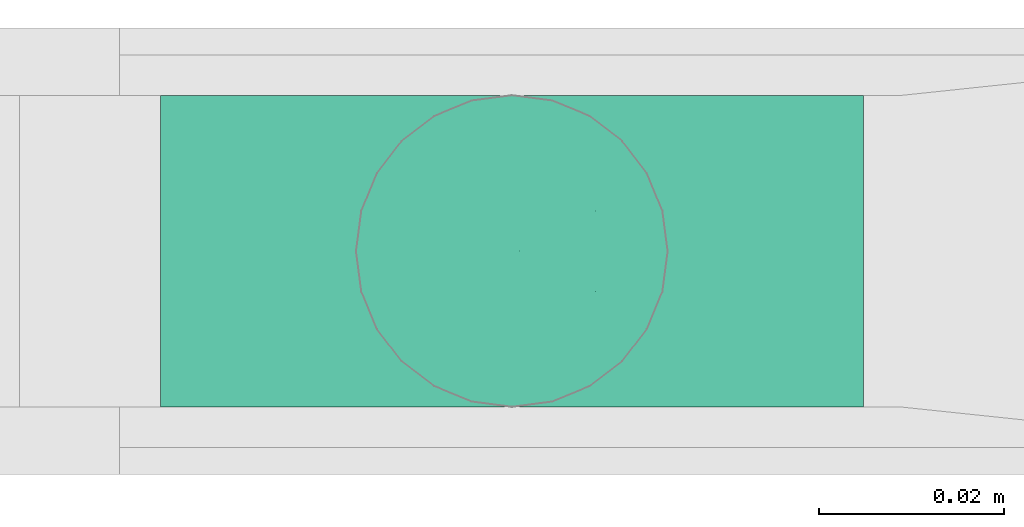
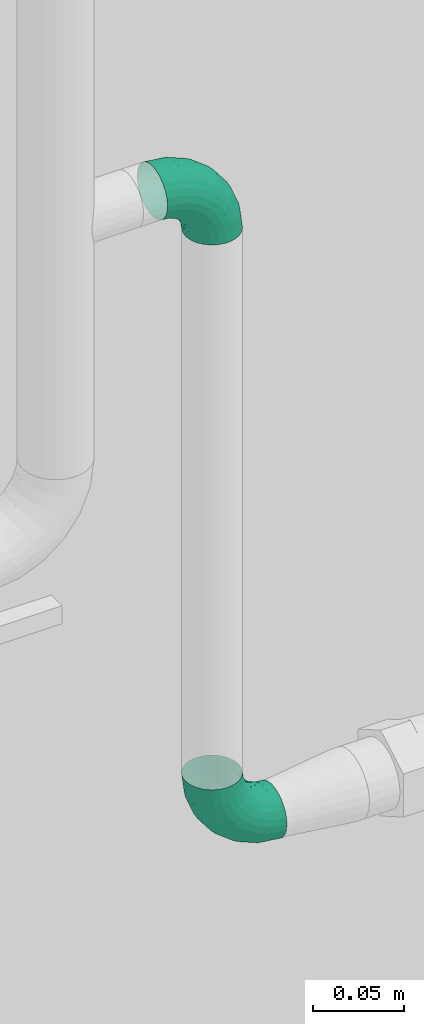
# One storey, part 350 of 374: 2 flow segments.
"""IFC2X3 building model written with IfcOpenShell, lengths in metres."""

from ifc_helpers import new_model, si_unit, direction, origin, place, context, subcontext, project, spatial, open_shell, surface_model, source, transform, mapped, element, save


model = new_model("IFC2X3")

# Units and contexts
model_context = context("Model", 3, precision=1e-05, world=origin(), true_north=direction((-0.4480736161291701, 0.8939966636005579)))
body_context = subcontext(model_context, "Body", "Model", "MODEL_VIEW")
ifc_project = project(units=[si_unit("LENGTHUNIT", "METRE"), si_unit("AREAUNIT", "SQUARE_METRE"), si_unit("VOLUMEUNIT", "CUBIC_METRE"), si_unit("PLANEANGLEUNIT", "RADIAN"), si_unit("THERMODYNAMICTEMPERATUREUNIT", "KELVIN"), si_unit("MASSUNIT", "GRAM", prefix="KILO"), si_unit("TIMEUNIT", "SECOND")], contexts=[model_context])

# Site, building, storey
site_placement = place(None, origin())
site = spatial("IfcSite", under=ifc_project, at=site_placement, Name="Site 1", CompositionType="ELEMENT")
building_placement = place(site_placement, origin())
building = spatial("IfcBuilding", under=site, at=building_placement, Name="Undefined", CompositionType="ELEMENT")
storey_placement = place(building_placement, origin())
storey = spatial("IfcBuildingStorey", under=building, at=storey_placement, Name="Rez de chauss\x8ee", CompositionType="ELEMENT", Elevation=0.0)

# Flow segments
shared_shape_1 = source(origin(), body_context, "Body", "SurfaceModel", [
    surface_model("IfcFaceBasedSurfaceModel", [(0.014318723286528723, 0.0, 8.8817842e-16), (0.01424378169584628, 0.004398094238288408, 0.0), (7.494159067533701e-05, 0.004398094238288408, 8.8817842e-16), (0.0, 0.0, 0.0), (-0.013611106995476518, 0.004872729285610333, -0.0036363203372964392), (-0.01383082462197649, 0.000479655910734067, -0.003674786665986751), (-0.02588168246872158, 0.005789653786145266, -0.010661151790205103), (-0.026231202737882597, 0.0014062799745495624, -0.010773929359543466), (-0.03590056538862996, 0.007086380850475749, -0.02059576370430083), (-0.036356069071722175, 0.0027167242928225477, -0.020813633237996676), (-0.04298498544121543, 0.008674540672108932, -0.03276312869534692), (-0.0435154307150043, 0.0043216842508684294, -0.03310970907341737), (-0.046652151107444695, 0.010445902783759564, -0.04633406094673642), (-0.04722138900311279, 0.006111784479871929, -0.04682419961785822), (0.01402406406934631, 0.008643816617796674, -0.00112889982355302), (0.0002946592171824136, 0.00864381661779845, -0.001128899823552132), (-0.01296692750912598, 0.009103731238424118, -0.00465244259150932), (-0.02485694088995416, 0.009992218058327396, -0.011459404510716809), (-0.03456509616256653, 0.011248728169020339, -0.021085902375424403), (-0.041429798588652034, 0.012787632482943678, -0.03287590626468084), (-0.04498323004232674, 0.014504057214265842, -0.04602594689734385), (0.013674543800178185, 0.012447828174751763, -0.0033097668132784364), (0.0006441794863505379, 0.012447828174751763, -0.003309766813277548), (-0.011942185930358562, 0.012884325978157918, -0.006653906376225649), (-0.023226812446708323, 0.013727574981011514, -0.01311428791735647), (-0.032440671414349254, 0.014920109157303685, -0.022250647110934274), (-0.038955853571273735, 0.016380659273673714, -0.03344035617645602), (-0.04232836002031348, 0.01800969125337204, -0.04592085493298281), (0.013219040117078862, 0.01555089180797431, -0.006393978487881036), (0.0010996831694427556, 0.015550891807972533, -0.006393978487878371), (-0.010606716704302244, 0.015956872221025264, -0.009504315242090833), (-0.021102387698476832, 0.016741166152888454, -0.01551302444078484), (-0.029672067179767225, 0.01785032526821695, -0.024010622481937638), (-0.035731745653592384, 0.01920876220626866, -0.03441801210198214), (-0.038868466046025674, 0.02072390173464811, -0.04602594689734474), (0.012688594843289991, 0.01774153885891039, -0.010171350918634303), (0.0016301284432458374, 0.01774153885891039, -0.010171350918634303), (-0.009051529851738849, 0.018111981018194, -0.013009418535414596), (-0.01862844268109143, 0.01882762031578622, -0.018492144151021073), (-0.026447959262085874, 0.019839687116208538, -0.02624588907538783), (-0.03197719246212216, 0.021079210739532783, -0.03574224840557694), (-0.034839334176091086, 0.022461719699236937, -0.04633406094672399), (0.012119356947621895, 0.018870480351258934, -0.014384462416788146), (0.0021993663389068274, 0.018870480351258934, -0.014384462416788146), (-0.007382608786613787, 0.019202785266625, -0.016930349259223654), (-0.015973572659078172, 0.019844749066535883, -0.021848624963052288), (-0.022988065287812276, 0.020752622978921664, -0.02880411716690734), (-0.027948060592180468, 0.021864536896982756, -0.03732282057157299), (-0.030515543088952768, 0.023104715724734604, -0.04682419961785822), (0.0115501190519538, 0.018860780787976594, -0.01874619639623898), (0.002768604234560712, 0.018860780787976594, -0.01874619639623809), (-0.005713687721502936, 0.019154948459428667, -0.020999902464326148), (-0.013318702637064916, 0.01972323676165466, -0.025353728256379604), (-0.019528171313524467, 0.02052691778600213, -0.03151096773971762), (-0.023918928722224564, 0.021511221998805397, -0.03905201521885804), (-0.02619175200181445, 0.02260907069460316, -0.04746296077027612), (0.011019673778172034, 0.01771310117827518, -0.022959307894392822), (0.0032990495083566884, 0.01771310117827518, -0.022959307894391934), (-0.004158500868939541, 0.017971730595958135, -0.0249407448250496), (-0.010844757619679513, 0.018471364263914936, -0.028768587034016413), (-0.01630406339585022, 0.019177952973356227, -0.03418197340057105), (-0.020164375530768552, 0.0200433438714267, -0.04081199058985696), (-0.022162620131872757, 0.02100856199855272, -0.04820681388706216), (0.010564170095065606, 0.015505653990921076, -0.02673668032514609), (0.0037545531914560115, 0.015505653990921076, -0.0267366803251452), (-0.002823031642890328, 0.01573376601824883, -0.028484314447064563), (-0.008720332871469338, 0.016174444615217, -0.03186048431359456), (-0.01353545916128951, 0.016797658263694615, -0.036635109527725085), (-0.016940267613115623, 0.017560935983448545, -0.042482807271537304), (-0.018702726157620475, 0.01841226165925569, -0.04900506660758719), (0.010214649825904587, 0.012388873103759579, -0.029820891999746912), (0.004104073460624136, 0.012388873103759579, -0.029820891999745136), (-0.0017982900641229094, 0.012593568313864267, -0.03138912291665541), (-0.007090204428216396, 0.012989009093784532, -0.03441871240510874), (-0.011411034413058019, 0.013548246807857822, -0.0387031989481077), (-0.014466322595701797, 0.014233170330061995, -0.04395060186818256), (-0.01604785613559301, 0.014997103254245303, -0.0498033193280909), (0.009994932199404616, 0.008575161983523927, -0.03200175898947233), (0.004323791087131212, 0.00857516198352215, -0.03200175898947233), (-0.001154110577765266, 0.00876513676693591, -0.03345721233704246), (-0.006065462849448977, 0.009132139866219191, -0.03626893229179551), (-0.0100755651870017, 0.009651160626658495, -0.04024530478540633), (-0.012911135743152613, 0.010286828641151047, -0.04511534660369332), (-0.014378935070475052, 0.010995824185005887, -0.05054717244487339), (0.009919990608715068, 0.004324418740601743, -0.03313065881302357), (0.004398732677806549, 0.004324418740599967, -0.03313065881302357), (-0.0009343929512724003, 0.004509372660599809, -0.03454764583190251), (-0.005715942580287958, 0.004866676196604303, -0.03728505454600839), (-0.009620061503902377, 0.005371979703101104, -0.041156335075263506), (-0.012380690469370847, 0.005990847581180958, -0.04589766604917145), (-0.013809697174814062, 0.006681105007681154, -0.05118593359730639), (0.00999493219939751, -7.367549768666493e-05, -0.03313065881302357), (0.004323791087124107, -7.367549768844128e-05, -0.03313065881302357), (-0.0011541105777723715, 0.00011629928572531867, -0.03458611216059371), (-0.0060654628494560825, 0.00048330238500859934, -0.03739783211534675), (-0.010075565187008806, 0.0010023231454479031, -0.04137420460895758), (-0.012911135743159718, 0.001637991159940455, -0.04624424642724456), (-0.014378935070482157, 0.002346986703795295, -0.05167607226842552), (0.010214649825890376, -0.004319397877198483, -0.03200175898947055), (0.00410407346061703, -0.0043193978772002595, -0.03200175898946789), (-0.0017982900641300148, -0.004114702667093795, -0.03356998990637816), (-0.007090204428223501, -0.0037192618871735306, -0.036599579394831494), (-0.011411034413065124, -0.00316002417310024, -0.04088406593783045), (-0.014466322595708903, -0.002475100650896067, -0.04613146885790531), (-0.016047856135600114, -0.0017111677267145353, -0.05198418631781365), (0.0105641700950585, -0.008123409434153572, -0.029820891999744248), (0.003754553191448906, -0.008123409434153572, -0.02982089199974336), (-0.0028230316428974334, -0.007895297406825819, -0.03156852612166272), (-0.008720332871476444, -0.007454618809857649, -0.03494469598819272), (-0.013535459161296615, -0.006831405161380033, -0.03971932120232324), (-0.016940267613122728, -0.006068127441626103, -0.04556701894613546), (-0.01870272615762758, -0.005216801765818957, -0.05208927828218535), (0.011019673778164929, -0.011226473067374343, -0.026736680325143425), (0.003299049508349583, -0.011226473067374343, -0.026736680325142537), (-0.004158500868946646, -0.010967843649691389, -0.028718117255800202), (-0.010844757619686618, -0.010468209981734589, -0.032545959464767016), (-0.016304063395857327, -0.009761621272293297, -0.037959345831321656), (-0.020164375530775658, -0.008896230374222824, -0.044589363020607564), (-0.022162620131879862, -0.007931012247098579, -0.051984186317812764), (0.011550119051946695, -0.013417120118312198, -0.02295930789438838), (0.0027686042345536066, -0.013417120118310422, -0.022959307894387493), (-0.005713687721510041, -0.013122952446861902, -0.02521301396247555), (-0.013318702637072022, -0.012554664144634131, -0.029566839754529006), (-0.019528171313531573, -0.011750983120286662, -0.035724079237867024), (-0.02391892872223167, -0.010766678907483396, -0.04326512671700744), (-0.026191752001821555, -0.009668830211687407, -0.05167607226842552), (0.01211935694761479, -0.014546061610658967, -0.018746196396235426), (0.002199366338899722, -0.014546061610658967, -0.018746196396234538), (-0.007382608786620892, -0.0142137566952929, -0.021292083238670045), (-0.015973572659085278, -0.013571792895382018, -0.02621035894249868), (-0.02298806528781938, -0.012663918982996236, -0.03316585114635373), (-0.027948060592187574, -0.011552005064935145, -0.04168455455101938), (-0.030515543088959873, -0.010311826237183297, -0.05118593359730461), (0.012688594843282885, -0.014536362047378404, -0.014384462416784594), (0.001630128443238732, -0.014536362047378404, -0.014384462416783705), (-0.009051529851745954, -0.014165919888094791, -0.017222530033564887), (-0.018628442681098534, -0.013450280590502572, -0.022705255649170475), (-0.02644795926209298, -0.012438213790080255, -0.03045900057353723), (-0.03197719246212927, -0.011198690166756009, -0.03995535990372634), (-0.03483933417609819, -0.009816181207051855, -0.05054717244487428), (0.013219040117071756, -0.013388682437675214, -0.010171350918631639), (0.0010996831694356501, -0.01338868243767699, -0.010171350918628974), (-0.010606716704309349, -0.01298270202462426, -0.013281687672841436), (-0.021102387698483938, -0.01219840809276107, -0.019290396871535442), (-0.02967206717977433, -0.011089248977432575, -0.02778799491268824), (-0.03573174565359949, -0.009730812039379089, -0.038195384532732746), (-0.03886846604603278, -0.008215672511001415, -0.04980331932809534), (0.01367454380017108, -0.011181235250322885, -0.006393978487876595), (0.0006441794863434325, -0.011181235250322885, -0.006393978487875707), (-0.011942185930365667, -0.01074473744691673, -0.009738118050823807), (-0.023226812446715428, -0.009901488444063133, -0.01619849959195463), (-0.03244067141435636, -0.008708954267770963, -0.02533485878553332), (-0.03895585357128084, -0.007248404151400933, -0.03652456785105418), (-0.04232836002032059, -0.005619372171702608, -0.04900506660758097), (0.014024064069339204, -0.008064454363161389, -0.003309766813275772), (0.0002946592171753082, -0.008064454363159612, -0.0033097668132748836), (-0.012966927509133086, -0.0076045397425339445, -0.006833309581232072), (-0.024856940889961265, -0.0067160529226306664, -0.01364027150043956), (-0.03456509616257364, -0.005459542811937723, -0.023266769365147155), (-0.04142979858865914, -0.003920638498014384, -0.03505677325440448), (-0.044983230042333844, -0.00220421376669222, -0.0482068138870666), (0.014243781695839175, -0.004250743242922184, -0.0011288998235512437), (7.494159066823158e-05, -0.004250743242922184, -0.0011288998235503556), (-0.013611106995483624, -0.0037761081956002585, -0.004765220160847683), (-0.025881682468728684, -0.002859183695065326, -0.011790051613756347), (-0.03590056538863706, -0.001562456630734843, -0.021724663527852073), (-0.042984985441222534, 2.5703190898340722e-05, -0.033892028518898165), (-0.0466521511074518, 0.0017970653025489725, -0.047462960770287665)], [open_shell([[[0, 1, 2, 3]], [[3, 2, 4, 5]], [[5, 4, 6, 7]], [[7, 6, 8, 9]], [[9, 8, 10, 11]], [[11, 10, 12, 13]], [[1, 14, 15, 2]], [[2, 15, 16, 4]], [[4, 16, 17, 6]], [[6, 17, 18, 8]], [[8, 18, 19, 10]], [[10, 19, 20, 12]], [[14, 21, 22, 15]], [[15, 22, 23, 16]], [[16, 23, 24, 17]], [[17, 24, 25, 18]], [[18, 25, 26, 19]], [[19, 26, 27, 20]], [[21, 28, 29, 22]], [[22, 29, 30, 23]], [[23, 30, 31, 24]], [[24, 31, 32, 25]], [[25, 32, 33, 26]], [[26, 33, 34, 27]], [[28, 35, 36, 29]], [[29, 36, 37, 30]], [[30, 37, 38, 31]], [[31, 38, 39, 32]], [[32, 39, 40, 33]], [[33, 40, 41, 34]], [[35, 42, 43, 36]], [[36, 43, 44, 37]], [[37, 44, 45, 38]], [[38, 45, 46, 39]], [[39, 46, 47, 40]], [[40, 47, 48, 41]], [[42, 49, 50, 43]], [[43, 50, 51, 44]], [[44, 51, 52, 45]], [[45, 52, 53, 46]], [[46, 53, 54, 47]], [[47, 54, 55, 48]], [[49, 56, 57, 50]], [[50, 57, 58, 51]], [[51, 58, 59, 52]], [[52, 59, 60, 53]], [[53, 60, 61, 54]], [[54, 61, 62, 55]], [[56, 63, 64, 57]], [[57, 64, 65, 58]], [[58, 65, 66, 59]], [[59, 66, 67, 60]], [[60, 67, 68, 61]], [[61, 68, 69, 62]], [[63, 70, 71, 64]], [[64, 71, 72, 65]], [[65, 72, 73, 66]], [[66, 73, 74, 67]], [[67, 74, 75, 68]], [[68, 75, 76, 69]], [[70, 77, 78, 71]], [[71, 78, 79, 72]], [[72, 79, 80, 73]], [[73, 80, 81, 74]], [[74, 81, 82, 75]], [[75, 82, 83, 76]], [[77, 84, 85, 78]], [[78, 85, 86, 79]], [[79, 86, 87, 80]], [[80, 87, 88, 81]], [[81, 88, 89, 82]], [[82, 89, 90, 83]], [[84, 91, 92, 85]], [[85, 92, 93, 86]], [[86, 93, 94, 87]], [[87, 94, 95, 88]], [[88, 95, 96, 89]], [[89, 96, 97, 90]], [[91, 98, 99, 92]], [[92, 99, 100, 93]], [[93, 100, 101, 94]], [[94, 101, 102, 95]], [[95, 102, 103, 96]], [[96, 103, 104, 97]], [[98, 105, 106, 99]], [[99, 106, 107, 100]], [[100, 107, 108, 101]], [[101, 108, 109, 102]], [[102, 109, 110, 103]], [[103, 110, 111, 104]], [[105, 112, 113, 106]], [[106, 113, 114, 107]], [[107, 114, 115, 108]], [[108, 115, 116, 109]], [[109, 116, 117, 110]], [[110, 117, 118, 111]], [[112, 119, 120, 113]], [[113, 120, 121, 114]], [[114, 121, 122, 115]], [[115, 122, 123, 116]], [[116, 123, 124, 117]], [[117, 124, 125, 118]], [[119, 126, 127, 120]], [[120, 127, 128, 121]], [[121, 128, 129, 122]], [[122, 129, 130, 123]], [[123, 130, 131, 124]], [[124, 131, 132, 125]], [[126, 133, 134, 127]], [[127, 134, 135, 128]], [[128, 135, 136, 129]], [[129, 136, 137, 130]], [[130, 137, 138, 131]], [[131, 138, 139, 132]], [[133, 140, 141, 134]], [[134, 141, 142, 135]], [[135, 142, 143, 136]], [[136, 143, 144, 137]], [[137, 144, 145, 138]], [[138, 145, 146, 139]], [[140, 147, 148, 141]], [[141, 148, 149, 142]], [[142, 149, 150, 143]], [[143, 150, 151, 144]], [[144, 151, 152, 145]], [[145, 152, 153, 146]], [[147, 154, 155, 148]], [[148, 155, 156, 149]], [[149, 156, 157, 150]], [[150, 157, 158, 151]], [[151, 158, 159, 152]], [[152, 159, 160, 153]], [[154, 161, 162, 155]], [[155, 162, 163, 156]], [[156, 163, 164, 157]], [[157, 164, 165, 158]], [[158, 165, 166, 159]], [[159, 166, 167, 160]], [[161, 0, 3, 162]], [[162, 3, 5, 163]], [[163, 5, 7, 164]], [[164, 7, 9, 165]], [[165, 9, 11, 166]], [[166, 11, 13, 167]]])]),
])
flow_segment_1_placement = place(storey_placement, origin())
element("IfcFlowSegment", 1, at=flow_segment_1_placement, inside=storey, Name="Tube coudé", ObjectType="Tube coudé", context=body_context, shape_type="MappedRepresentation", body=[
    mapped(shared_shape_1, transform((54.17449617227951, 11.70808442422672, 1.5909212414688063), x_axis=(-0.9914448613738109, 0.0, 0.1305261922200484), y_axis=(-0.016893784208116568, -0.9915887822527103, -0.12832103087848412), z_axis=(0.12942830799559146, -0.1294283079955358, 0.9831056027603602))),
])
shared_shape_2 = source(origin(), body_context, "Body", "SurfaceModel", [
    surface_model("IfcFaceBasedSurfaceModel", [(0.014318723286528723, 0.0, 8.8817842e-16), (0.01424378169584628, 0.004398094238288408, 0.0), (7.494159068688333e-05, 0.004398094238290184, 0.0), (0.0, 0.0, 0.0), (-0.013611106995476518, 0.004872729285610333, -0.0036363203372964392), (-0.01383082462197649, 0.000479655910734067, -0.003674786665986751), (-0.02588168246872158, 0.005789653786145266, -0.010661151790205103), (-0.026231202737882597, 0.0014062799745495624, -0.010773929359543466), (-0.03590056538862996, 0.007086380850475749, -0.02059576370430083), (-0.036356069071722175, 0.0027167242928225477, -0.020813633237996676), (-0.04298498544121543, 0.008674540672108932, -0.03276312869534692), (-0.0435154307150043, 0.0043216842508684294, -0.03310970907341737), (-0.046652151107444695, 0.010445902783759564, -0.04633406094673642), (-0.04722138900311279, 0.006111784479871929, -0.04682419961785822), (0.01402406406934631, 0.008643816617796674, -0.00112889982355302), (0.0002946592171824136, 0.00864381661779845, -0.001128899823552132), (-0.01296692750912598, 0.009103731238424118, -0.00465244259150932), (-0.02485694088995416, 0.009992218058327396, -0.011459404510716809), (-0.03456509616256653, 0.011248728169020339, -0.021085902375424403), (-0.041429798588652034, 0.012787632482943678, -0.03287590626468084), (-0.04498323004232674, 0.014504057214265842, -0.04602594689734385), (0.013674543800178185, 0.012447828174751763, -0.0033097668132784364), (0.0006441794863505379, 0.012447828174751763, -0.003309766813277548), (-0.011942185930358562, 0.012884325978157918, -0.006653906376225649), (-0.023226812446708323, 0.013727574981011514, -0.01311428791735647), (-0.032440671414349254, 0.014920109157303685, -0.022250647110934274), (-0.038955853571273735, 0.016380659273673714, -0.03344035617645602), (-0.04232836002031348, 0.01800969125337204, -0.04592085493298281), (0.013219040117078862, 0.01555089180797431, -0.006393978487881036), (0.0010996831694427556, 0.015550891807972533, -0.006393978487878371), (-0.010606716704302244, 0.015956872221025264, -0.009504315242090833), (-0.021102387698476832, 0.016741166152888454, -0.01551302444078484), (-0.029672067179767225, 0.01785032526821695, -0.024010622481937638), (-0.035731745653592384, 0.01920876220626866, -0.03441801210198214), (-0.038868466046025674, 0.02072390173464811, -0.04602594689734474), (0.012688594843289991, 0.01774153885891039, -0.010171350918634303), (0.0016301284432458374, 0.01774153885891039, -0.010171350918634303), (-0.009051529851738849, 0.018111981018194, -0.013009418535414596), (-0.01862844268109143, 0.01882762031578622, -0.018492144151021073), (-0.026447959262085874, 0.019839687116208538, -0.02624588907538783), (-0.03197719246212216, 0.021079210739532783, -0.03574224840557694), (-0.034839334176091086, 0.022461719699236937, -0.04633406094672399), (0.012119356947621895, 0.018870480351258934, -0.014384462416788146), (0.0021993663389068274, 0.018870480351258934, -0.014384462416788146), (-0.007382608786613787, 0.019202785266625, -0.016930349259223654), (-0.015973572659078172, 0.019844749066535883, -0.021848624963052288), (-0.022988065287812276, 0.020752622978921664, -0.02880411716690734), (-0.027948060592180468, 0.021864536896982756, -0.03732282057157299), (-0.030515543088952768, 0.023104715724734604, -0.04682419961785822), (0.0115501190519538, 0.018860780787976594, -0.01874619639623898), (0.002768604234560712, 0.018860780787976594, -0.01874619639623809), (-0.005713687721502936, 0.019154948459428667, -0.020999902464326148), (-0.013318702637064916, 0.01972323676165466, -0.025353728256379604), (-0.019528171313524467, 0.02052691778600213, -0.03151096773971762), (-0.023918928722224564, 0.021511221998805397, -0.03905201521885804), (-0.02619175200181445, 0.02260907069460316, -0.04746296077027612), (0.011019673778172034, 0.01771310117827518, -0.022959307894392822), (0.0032990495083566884, 0.01771310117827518, -0.022959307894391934), (-0.004158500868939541, 0.017971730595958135, -0.0249407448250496), (-0.010844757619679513, 0.018471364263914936, -0.028768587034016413), (-0.01630406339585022, 0.019177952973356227, -0.03418197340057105), (-0.020164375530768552, 0.0200433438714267, -0.04081199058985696), (-0.022162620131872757, 0.02100856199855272, -0.04820681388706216), (0.010564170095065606, 0.015505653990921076, -0.02673668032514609), (0.0037545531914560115, 0.015505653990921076, -0.0267366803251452), (-0.002823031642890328, 0.01573376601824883, -0.028484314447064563), (-0.008720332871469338, 0.016174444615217, -0.03186048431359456), (-0.01353545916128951, 0.016797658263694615, -0.036635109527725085), (-0.016940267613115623, 0.017560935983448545, -0.042482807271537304), (-0.018702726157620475, 0.01841226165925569, -0.04900506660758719), (0.010214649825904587, 0.012388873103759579, -0.029820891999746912), (0.004104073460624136, 0.012388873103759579, -0.029820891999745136), (-0.0017982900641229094, 0.012593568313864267, -0.03138912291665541), (-0.007090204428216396, 0.012989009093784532, -0.03441871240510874), (-0.011411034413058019, 0.013548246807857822, -0.0387031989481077), (-0.014466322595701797, 0.014233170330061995, -0.04395060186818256), (-0.01604785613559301, 0.014997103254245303, -0.0498033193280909), (0.009994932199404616, 0.008575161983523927, -0.03200175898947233), (0.004323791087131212, 0.00857516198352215, -0.03200175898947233), (-0.001154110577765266, 0.00876513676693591, -0.03345721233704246), (-0.006065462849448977, 0.009132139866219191, -0.03626893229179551), (-0.0100755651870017, 0.009651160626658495, -0.04024530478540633), (-0.012911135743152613, 0.010286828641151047, -0.04511534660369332), (-0.014378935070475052, 0.010995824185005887, -0.05054717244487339), (0.009919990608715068, 0.004324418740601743, -0.03313065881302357), (0.004398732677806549, 0.004324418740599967, -0.03313065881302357), (-0.0009343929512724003, 0.004509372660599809, -0.03454764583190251), (-0.005715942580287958, 0.004866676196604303, -0.03728505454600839), (-0.009620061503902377, 0.005371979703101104, -0.041156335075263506), (-0.012380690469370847, 0.005990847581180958, -0.04589766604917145), (-0.013809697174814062, 0.006681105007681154, -0.05118593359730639), (0.009994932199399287, -7.367549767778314e-05, -0.033130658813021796), (0.004323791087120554, -7.367549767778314e-05, -0.033130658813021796), (-0.0011541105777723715, 0.00011629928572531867, -0.03458611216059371), (-0.0060654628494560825, 0.00048330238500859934, -0.03739783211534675), (-0.010075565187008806, 0.0010023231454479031, -0.04137420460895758), (-0.012911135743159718, 0.001637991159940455, -0.04624424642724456), (-0.014378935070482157, 0.002346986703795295, -0.05167607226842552), (0.010214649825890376, -0.004319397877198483, -0.03200175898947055), (0.00410407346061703, -0.0043193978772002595, -0.03200175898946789), (-0.0017982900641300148, -0.004114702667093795, -0.03356998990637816), (-0.007090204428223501, -0.0037192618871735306, -0.036599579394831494), (-0.011411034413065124, -0.00316002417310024, -0.04088406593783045), (-0.014466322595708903, -0.002475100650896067, -0.04613146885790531), (-0.016047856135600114, -0.0017111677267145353, -0.05198418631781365), (0.0105641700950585, -0.008123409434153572, -0.029820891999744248), (0.003754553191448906, -0.008123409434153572, -0.02982089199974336), (-0.0028230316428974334, -0.007895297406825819, -0.03156852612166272), (-0.008720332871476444, -0.007454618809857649, -0.03494469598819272), (-0.013535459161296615, -0.006831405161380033, -0.03971932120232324), (-0.016940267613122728, -0.006068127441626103, -0.04556701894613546), (-0.01870272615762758, -0.005216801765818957, -0.05208927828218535), (0.011019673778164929, -0.011226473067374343, -0.026736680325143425), (0.003299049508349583, -0.011226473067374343, -0.026736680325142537), (-0.004158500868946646, -0.010967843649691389, -0.028718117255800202), (-0.010844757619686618, -0.010468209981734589, -0.032545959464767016), (-0.016304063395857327, -0.009761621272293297, -0.037959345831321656), (-0.020164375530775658, -0.008896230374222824, -0.044589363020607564), (-0.022162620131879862, -0.007931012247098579, -0.051984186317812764), (0.011550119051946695, -0.013417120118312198, -0.02295930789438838), (0.0027686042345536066, -0.013417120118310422, -0.022959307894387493), (-0.005713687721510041, -0.013122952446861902, -0.02521301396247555), (-0.013318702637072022, -0.012554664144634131, -0.029566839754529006), (-0.019528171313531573, -0.011750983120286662, -0.035724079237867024), (-0.02391892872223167, -0.010766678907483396, -0.04326512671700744), (-0.026191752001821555, -0.009668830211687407, -0.05167607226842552), (0.01211935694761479, -0.014546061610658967, -0.018746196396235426), (0.002199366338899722, -0.014546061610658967, -0.018746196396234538), (-0.007382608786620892, -0.0142137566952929, -0.021292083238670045), (-0.015973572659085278, -0.013571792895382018, -0.02621035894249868), (-0.02298806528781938, -0.012663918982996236, -0.03316585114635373), (-0.027948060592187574, -0.011552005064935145, -0.04168455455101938), (-0.030515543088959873, -0.010311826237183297, -0.05118593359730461), (0.012688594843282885, -0.014536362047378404, -0.014384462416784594), (0.001630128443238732, -0.014536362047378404, -0.014384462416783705), (-0.009051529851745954, -0.014165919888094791, -0.017222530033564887), (-0.018628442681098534, -0.013450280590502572, -0.022705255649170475), (-0.02644795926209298, -0.012438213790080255, -0.03045900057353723), (-0.03197719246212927, -0.011198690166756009, -0.03995535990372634), (-0.03483933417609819, -0.009816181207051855, -0.05054717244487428), (0.013219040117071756, -0.013388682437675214, -0.010171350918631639), (0.0010996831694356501, -0.01338868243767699, -0.010171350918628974), (-0.010606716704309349, -0.01298270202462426, -0.013281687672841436), (-0.021102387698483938, -0.01219840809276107, -0.019290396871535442), (-0.02967206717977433, -0.011089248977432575, -0.02778799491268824), (-0.03573174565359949, -0.009730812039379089, -0.038195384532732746), (-0.03886846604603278, -0.008215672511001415, -0.04980331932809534), (0.01367454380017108, -0.011181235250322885, -0.006393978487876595), (0.0006441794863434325, -0.011181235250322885, -0.006393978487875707), (-0.011942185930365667, -0.01074473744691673, -0.009738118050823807), (-0.023226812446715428, -0.009901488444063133, -0.01619849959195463), (-0.03244067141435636, -0.008708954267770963, -0.02533485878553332), (-0.03895585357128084, -0.007248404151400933, -0.03652456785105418), (-0.04232836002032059, -0.005619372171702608, -0.04900506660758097), (0.014024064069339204, -0.008064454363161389, -0.003309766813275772), (0.0002946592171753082, -0.008064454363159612, -0.0033097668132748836), (-0.012966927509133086, -0.0076045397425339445, -0.006833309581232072), (-0.024856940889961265, -0.0067160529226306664, -0.01364027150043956), (-0.03456509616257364, -0.005459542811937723, -0.023266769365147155), (-0.04142979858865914, -0.003920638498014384, -0.03505677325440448), (-0.044983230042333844, -0.00220421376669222, -0.0482068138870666), (0.014243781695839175, -0.004250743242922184, -0.0011288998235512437), (7.494159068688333e-05, -0.004250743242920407, -0.0011288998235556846), (-0.013611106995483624, -0.0037761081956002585, -0.004765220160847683), (-0.025881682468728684, -0.002859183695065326, -0.011790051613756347), (-0.03590056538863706, -0.001562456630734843, -0.021724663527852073), (-0.042984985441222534, 2.5703190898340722e-05, -0.033892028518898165), (-0.0466521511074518, 0.0017970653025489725, -0.047462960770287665)], [open_shell([[[0, 1, 2, 3]], [[3, 2, 4, 5]], [[5, 4, 6, 7]], [[7, 6, 8, 9]], [[9, 8, 10, 11]], [[11, 10, 12, 13]], [[1, 14, 15, 2]], [[2, 15, 16, 4]], [[4, 16, 17, 6]], [[6, 17, 18, 8]], [[8, 18, 19, 10]], [[10, 19, 20, 12]], [[14, 21, 22, 15]], [[15, 22, 23, 16]], [[16, 23, 24, 17]], [[17, 24, 25, 18]], [[18, 25, 26, 19]], [[19, 26, 27, 20]], [[21, 28, 29, 22]], [[22, 29, 30, 23]], [[23, 30, 31, 24]], [[24, 31, 32, 25]], [[25, 32, 33, 26]], [[26, 33, 34, 27]], [[28, 35, 36, 29]], [[29, 36, 37, 30]], [[30, 37, 38, 31]], [[31, 38, 39, 32]], [[32, 39, 40, 33]], [[33, 40, 41, 34]], [[35, 42, 43, 36]], [[36, 43, 44, 37]], [[37, 44, 45, 38]], [[38, 45, 46, 39]], [[39, 46, 47, 40]], [[40, 47, 48, 41]], [[42, 49, 50, 43]], [[43, 50, 51, 44]], [[44, 51, 52, 45]], [[45, 52, 53, 46]], [[46, 53, 54, 47]], [[47, 54, 55, 48]], [[49, 56, 57, 50]], [[50, 57, 58, 51]], [[51, 58, 59, 52]], [[52, 59, 60, 53]], [[53, 60, 61, 54]], [[54, 61, 62, 55]], [[56, 63, 64, 57]], [[57, 64, 65, 58]], [[58, 65, 66, 59]], [[59, 66, 67, 60]], [[60, 67, 68, 61]], [[61, 68, 69, 62]], [[63, 70, 71, 64]], [[64, 71, 72, 65]], [[65, 72, 73, 66]], [[66, 73, 74, 67]], [[67, 74, 75, 68]], [[68, 75, 76, 69]], [[70, 77, 78, 71]], [[71, 78, 79, 72]], [[72, 79, 80, 73]], [[73, 80, 81, 74]], [[74, 81, 82, 75]], [[75, 82, 83, 76]], [[77, 84, 85, 78]], [[78, 85, 86, 79]], [[79, 86, 87, 80]], [[80, 87, 88, 81]], [[81, 88, 89, 82]], [[82, 89, 90, 83]], [[84, 91, 92, 85]], [[85, 92, 93, 86]], [[86, 93, 94, 87]], [[87, 94, 95, 88]], [[88, 95, 96, 89]], [[89, 96, 97, 90]], [[91, 98, 99, 92]], [[92, 99, 100, 93]], [[93, 100, 101, 94]], [[94, 101, 102, 95]], [[95, 102, 103, 96]], [[96, 103, 104, 97]], [[98, 105, 106, 99]], [[99, 106, 107, 100]], [[100, 107, 108, 101]], [[101, 108, 109, 102]], [[102, 109, 110, 103]], [[103, 110, 111, 104]], [[105, 112, 113, 106]], [[106, 113, 114, 107]], [[107, 114, 115, 108]], [[108, 115, 116, 109]], [[109, 116, 117, 110]], [[110, 117, 118, 111]], [[112, 119, 120, 113]], [[113, 120, 121, 114]], [[114, 121, 122, 115]], [[115, 122, 123, 116]], [[116, 123, 124, 117]], [[117, 124, 125, 118]], [[119, 126, 127, 120]], [[120, 127, 128, 121]], [[121, 128, 129, 122]], [[122, 129, 130, 123]], [[123, 130, 131, 124]], [[124, 131, 132, 125]], [[126, 133, 134, 127]], [[127, 134, 135, 128]], [[128, 135, 136, 129]], [[129, 136, 137, 130]], [[130, 137, 138, 131]], [[131, 138, 139, 132]], [[133, 140, 141, 134]], [[134, 141, 142, 135]], [[135, 142, 143, 136]], [[136, 143, 144, 137]], [[137, 144, 145, 138]], [[138, 145, 146, 139]], [[140, 147, 148, 141]], [[141, 148, 149, 142]], [[142, 149, 150, 143]], [[143, 150, 151, 144]], [[144, 151, 152, 145]], [[145, 152, 153, 146]], [[147, 154, 155, 148]], [[148, 155, 156, 149]], [[149, 156, 157, 150]], [[150, 157, 158, 151]], [[151, 158, 159, 152]], [[152, 159, 160, 153]], [[154, 161, 162, 155]], [[155, 162, 163, 156]], [[156, 163, 164, 157]], [[157, 164, 165, 158]], [[158, 165, 166, 159]], [[159, 166, 167, 160]], [[161, 0, 3, 162]], [[162, 3, 5, 163]], [[163, 5, 7, 164]], [[164, 7, 9, 165]], [[165, 9, 11, 166]], [[166, 11, 13, 167]]])]),
])
flow_segment_2_placement = place(storey_placement, origin())
element("IfcFlowSegment", 2, at=flow_segment_2_placement, inside=storey, Name="Tube coudé", ObjectType="Tube coudé", context=body_context, shape_type="MappedRepresentation", body=[
    mapped(shared_shape_2, transform((54.18331891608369, 11.708084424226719, 1.1573411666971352), x_axis=(-0.13052619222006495, 0.0, 0.9914448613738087), y_axis=(0.1283210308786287, 0.99158878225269, 0.01689378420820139), z_axis=(-0.9831056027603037, 0.12942830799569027, -0.12942830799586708))),
])

save(model, "model.ifc")
